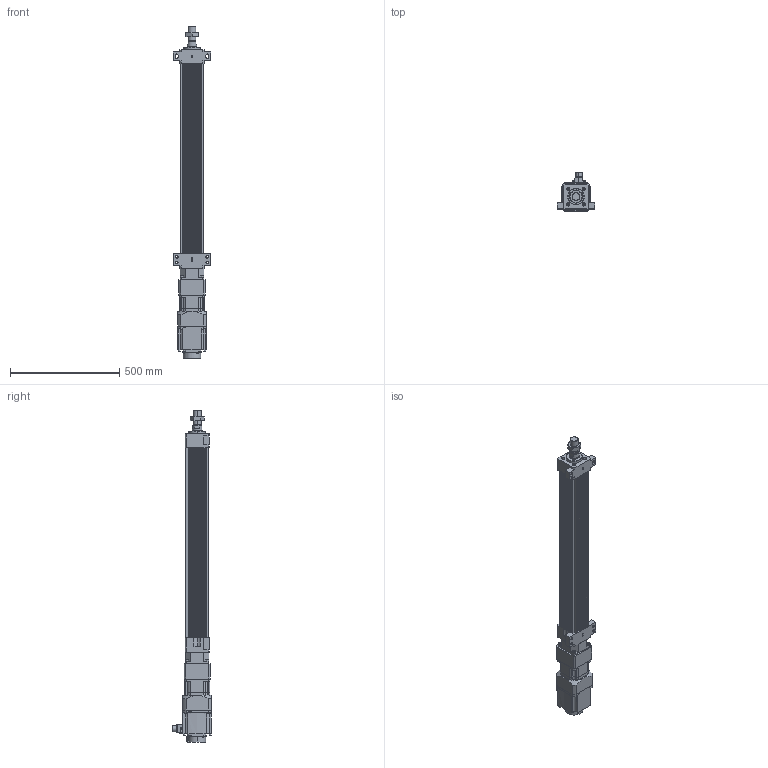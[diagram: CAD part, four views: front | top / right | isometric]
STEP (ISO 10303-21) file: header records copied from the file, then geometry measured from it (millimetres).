
FILE_DESCRIPTION (( 'STEP AP203' ), '1' );
FILE_NAME ('HES110NS(HS)-S700-W015G00-M-FFB.STEP', '2023-01-27T12:22:58', ( 'tms' ), ( '' ), 'SwSTEP 2.0', 'SolidWorks 2013', '' );
FILE_SCHEMA (( 'CONFIG_CONTROL_DESIGN' ));
Length unit declared in the file: millimetre
Products named in the file (8): HG-SR152; HES110-S700-G120-FFB; M36X1.5P; HES110NS(HS)-S700-W015G00-M-FFB; AB1151; HES110 ROD M ST700; AB115-003[HG-SR152]; P0401400706
Assembly tree (7 placements, depth 3):
  HES110NS(HS)-S700-W015G00-M-FFB
    HES110-S700-G120-FFB
    HES110 ROD M ST700
    M36X1.5P
    AB115-003[HG-SR152]
      AB1151
      P0401400706
    HG-SR152
Bounding box: 170 x 177.49 x 1521.5 mm (x, y, z)
Volume: 9772102.9 mm3; surface area: 1402717.7 mm2
Topology: 4 solids, 15 shells, 1194 faces, 3023 edges, 1968 vertices
Faces by surface type: plane 571, cylinder 531, cone 80, bspline 8, torus 4
Entity records: 37745 total; most frequent: CARTESIAN_POINT 7162, DIRECTION 6520, ORIENTED_EDGE 5998, EDGE_CURVE 3009, AXIS2_PLACEMENT_3D 2386, VERTEX_POINT 1968, VECTOR 1748, LINE 1748
